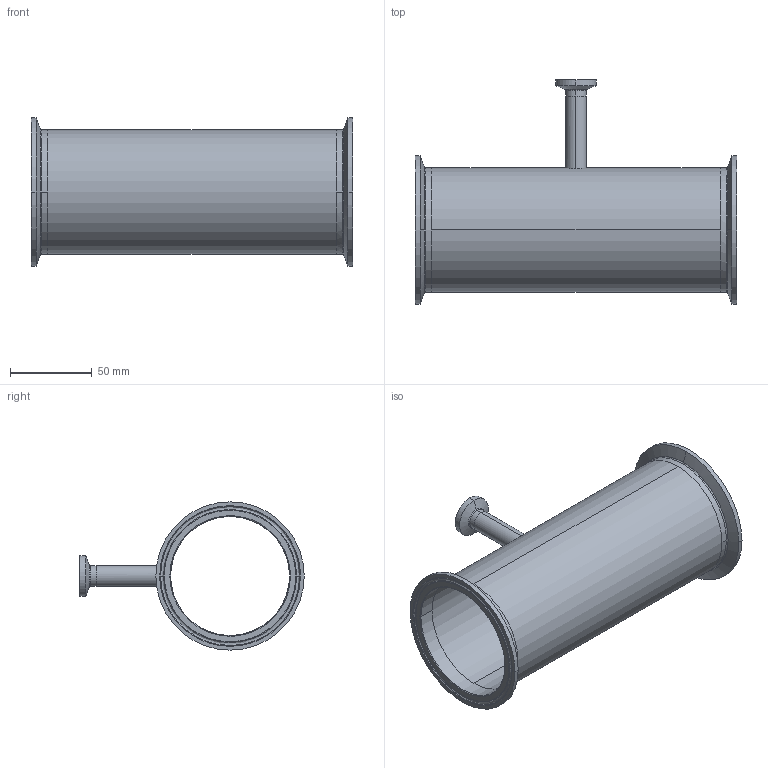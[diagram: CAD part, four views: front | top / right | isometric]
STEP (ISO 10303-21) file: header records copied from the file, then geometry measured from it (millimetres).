
FILE_DESCRIPTION (( 'STEP AP214' ), '1' );
FILE_NAME ('TEG7R6L3.0x.5-...STEP', '2016-05-24T06:58:43', ( 'eran' ), ( '' ), 'SwSTEP 2.0', 'SolidWorks 2016', '' );
FILE_SCHEMA (( 'AUTOMOTIVE_DESIGN' ));
Length unit declared in the file: millimetre
Products named in the file (1): TEG7R6L3.0x.5-..
Bounding box: 196.8 x 137.55 x 90.91 mm (x, y, z)
Volume: 95697.9 mm3; surface area: 106293.2 mm2
Topology: 4 solids, 4 shells, 84 faces, 198 edges, 126 vertices
Faces by surface type: cylinder 28, bspline 28, cone 16, plane 12
Entity records: 4145 total; most frequent: CARTESIAN_POINT 2159, DIRECTION 426, ORIENTED_EDGE 396, EDGE_CURVE 198, AXIS2_PLACEMENT_3D 191, CIRCLE 134, VERTEX_POINT 126, EDGE_LOOP 98
